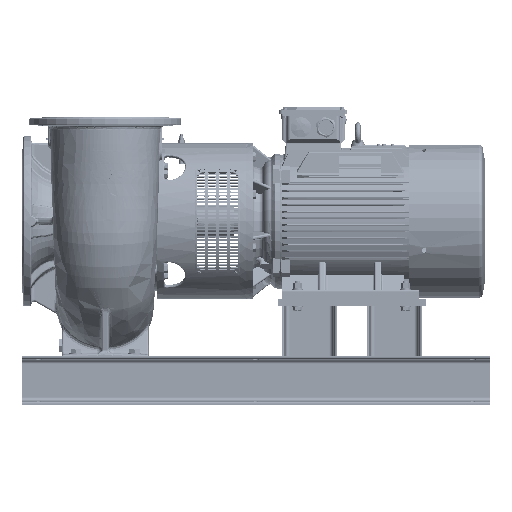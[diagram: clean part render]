
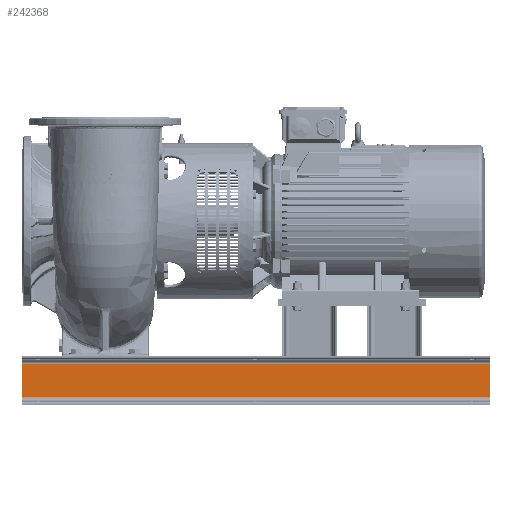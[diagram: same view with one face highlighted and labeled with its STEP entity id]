
A CAD part, top view. The second image highlights one B-rep face of the part: STEP entity #242368.
In plain terms, the highlighted planar face has unit normal (0, 0, 1) as drawn and (1, 0, 0) by its records, which use the part's own axes.
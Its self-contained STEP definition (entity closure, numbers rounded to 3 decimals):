
#235811=DIRECTION('',(0.,1.,0.));
#235812=VECTOR('',#235811,96.6);
#235813=CARTESIAN_POINT('',(357.,21.7,0.));
#235814=LINE('',#235813,#235812);
#237659=DIRECTION('',(0.,1.,0.));
#237660=VECTOR('',#237659,96.6);
#237661=CARTESIAN_POINT('',(357.,21.7,-1350.));
#237662=LINE('',#237661,#237660);
#238153=DIRECTION('',(0.,0.,-1.));
#238154=VECTOR('',#238153,1350.);
#238155=CARTESIAN_POINT('',(357.,21.7,0.));
#238156=LINE('',#238155,#238154);
#238157=DIRECTION('',(0.,0.,-1.));
#238158=VECTOR('',#238157,1350.);
#238159=CARTESIAN_POINT('',(357.,118.3,0.));
#238160=LINE('',#238159,#238158);
#239365=CARTESIAN_POINT('',(357.,21.7,0.));
#239366=VERTEX_POINT('',#239365);
#239367=CARTESIAN_POINT('',(357.,118.3,0.));
#239368=VERTEX_POINT('',#239367);
#239393=CARTESIAN_POINT('',(357.,21.7,-1350.));
#239394=VERTEX_POINT('',#239393);
#239395=CARTESIAN_POINT('',(357.,118.3,-1350.));
#239396=VERTEX_POINT('',#239395);
#242356=CARTESIAN_POINT('',(357.,21.7,0.));
#242357=DIRECTION('',(1.,0.,0.));
#242358=DIRECTION('',(0.,1.,0.));
#242359=AXIS2_PLACEMENT_3D('',#242356,#242357,#242358);
#242360=PLANE('',#242359);
#242361=ORIENTED_EDGE('',*,*,#240034,.T.);
#242363=ORIENTED_EDGE('',*,*,#242362,.T.);
#242364=ORIENTED_EDGE('',*,*,#241958,.F.);
#242365=ORIENTED_EDGE('',*,*,#242349,.F.);
#242366=EDGE_LOOP('',(#242361,#242363,#242364,#242365));
#242367=FACE_OUTER_BOUND('',#242366,.F.);
#242368=ADVANCED_FACE('',(#242367),#242360,.T.);
#240034=EDGE_CURVE('',#239366,#239368,#235814,.T.);
#241958=EDGE_CURVE('',#239394,#239396,#237662,.T.);
#242349=EDGE_CURVE('',#239366,#239394,#238156,.T.);
#242362=EDGE_CURVE('',#239368,#239396,#238160,.T.);
